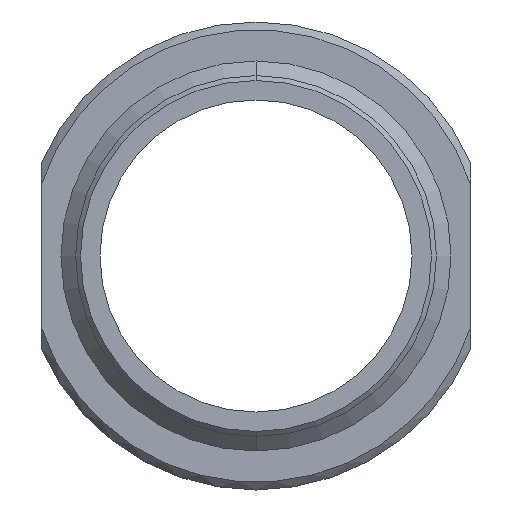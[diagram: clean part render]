
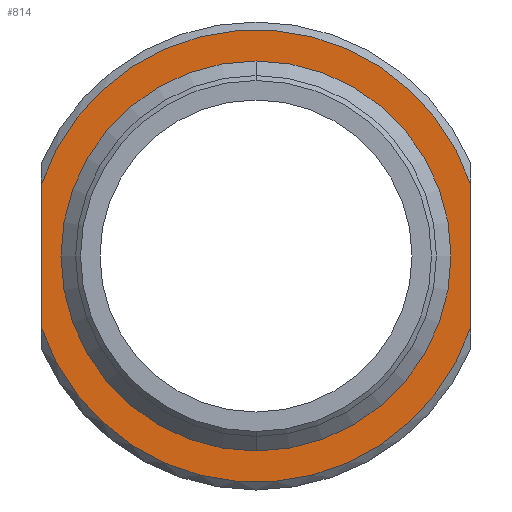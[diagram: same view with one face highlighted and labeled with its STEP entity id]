
A CAD part, front view. The second image highlights one B-rep face of the part: STEP entity #814.
In plain terms, the highlighted planar face has unit normal (0, -1, 0).
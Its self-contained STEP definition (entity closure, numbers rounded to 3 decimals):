
#16=CARTESIAN_POINT('',(0.,-4.,0.));
#17=DIRECTION('',(0.,1.,0.));
#18=DIRECTION('',(0.,0.,-1.));
#19=AXIS2_PLACEMENT_3D('',#16,#17,#18);
#25=CARTESIAN_POINT('',(0.,-4.,0.));
#26=DIRECTION('',(0.,-1.,0.));
#27=DIRECTION('',(0.,0.,-1.));
#28=AXIS2_PLACEMENT_3D('',#25,#26,#27);
#33=DIRECTION('',(0.,0.,1.));
#34=VECTOR('',#33,3.682);
#35=CARTESIAN_POINT('',(5.5,-4.,-1.841));
#36=LINE('',#35,#34);
#40=DIRECTION('',(0.,0.,-1.));
#41=VECTOR('',#40,3.682);
#42=CARTESIAN_POINT('',(-5.5,-4.,1.841));
#43=LINE('',#42,#41);
#521=CARTESIAN_POINT('',(0.,-4.,0.));
#522=DIRECTION('',(0.,-1.,0.));
#523=DIRECTION('',(0.948,0.,0.317));
#524=AXIS2_PLACEMENT_3D('',#521,#522,#523);
#575=CARTESIAN_POINT('',(0.,-4.,0.));
#576=DIRECTION('',(0.,-1.,0.));
#577=DIRECTION('',(-0.948,0.,-0.317));
#578=AXIS2_PLACEMENT_3D('',#575,#576,#577);
#697=CARTESIAN_POINT('',(5.5,-4.,-1.841));
#698=CARTESIAN_POINT('',(5.5,-4.,1.841));
#699=VERTEX_POINT('',#697);
#700=VERTEX_POINT('',#698);
#701=CARTESIAN_POINT('',(-5.5,-4.,1.841));
#702=CARTESIAN_POINT('',(-5.5,-4.,-1.841));
#703=VERTEX_POINT('',#701);
#704=VERTEX_POINT('',#702);
#769=CARTESIAN_POINT('',(0.,-4.,-5.));
#770=VERTEX_POINT('',#769);
#771=CARTESIAN_POINT('',(0.,-4.,5.));
#772=VERTEX_POINT('',#771);
#793=CARTESIAN_POINT('',(0.,-4.,0.));
#794=DIRECTION('',(0.,-1.,0.));
#795=DIRECTION('',(0.,0.,1.));
#796=AXIS2_PLACEMENT_3D('',#793,#794,#795);
#797=PLANE('',#796);
#799=ORIENTED_EDGE('',*,*,#798,.F.);
#801=ORIENTED_EDGE('',*,*,#800,.F.);
#803=ORIENTED_EDGE('',*,*,#802,.F.);
#805=ORIENTED_EDGE('',*,*,#804,.F.);
#806=EDGE_LOOP('',(#799,#801,#803,#805));
#807=FACE_OUTER_BOUND('',#806,.F.);
#809=ORIENTED_EDGE('',*,*,#808,.F.);
#811=ORIENTED_EDGE('',*,*,#810,.T.);
#812=EDGE_LOOP('',(#809,#811));
#813=FACE_BOUND('',#812,.F.);
#20=CIRCLE('',#19,5.);
#29=CIRCLE('',#28,5.);
#525=CIRCLE('',#524,5.8);
#579=CIRCLE('',#578,5.8);
#798=EDGE_CURVE('',#699,#700,#36,.T.);
#800=EDGE_CURVE('',#704,#699,#579,.T.);
#802=EDGE_CURVE('',#703,#704,#43,.T.);
#804=EDGE_CURVE('',#700,#703,#525,.T.);
#808=EDGE_CURVE('',#770,#772,#20,.T.);
#810=EDGE_CURVE('',#770,#772,#29,.T.);
#814=ADVANCED_FACE('',(#807,#813),#797,.T.);
